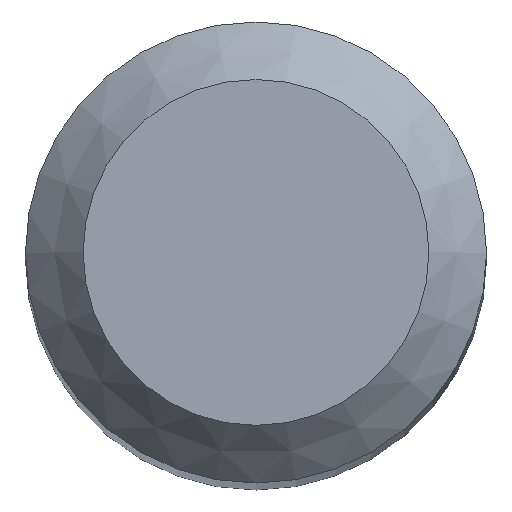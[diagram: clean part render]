
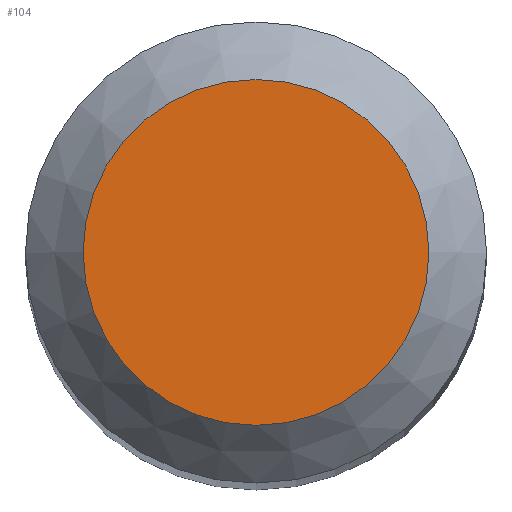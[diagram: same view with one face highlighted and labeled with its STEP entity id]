
A CAD part, top view. The second image highlights one B-rep face of the part: STEP entity #104.
In plain terms, the highlighted planar face has unit normal (0, 0, 1).
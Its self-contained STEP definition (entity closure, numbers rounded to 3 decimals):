
#88=CARTESIAN_POINT('',(1.5,0.0,45.0));
#89=DIRECTION('',(0.0,0.0,1.0));
#90=DIRECTION('',(1.0,0.0,0.0));
#91=AXIS2_PLACEMENT_3D('',#88,#89,#90);
#92=PLANE('',#91);
#93=CARTESIAN_POINT('',(-1.5,0.0,45.0));
#94=VERTEX_POINT('',#93);
#95=CARTESIAN_POINT('',(0.0,0.0,45.0));
#96=DIRECTION('',(0.0,0.0,-1.0));
#97=DIRECTION('',(-1.0,0.0,0.0));
#98=AXIS2_PLACEMENT_3D('',#95,#96,#97);
#99=CIRCLE('',#98,1.5);
#100=EDGE_CURVE('',#94,#94,#99,.T.);
#101=ORIENTED_EDGE('',*,*,#100,.F.);
#102=EDGE_LOOP('',(#101));
#103=FACE_OUTER_BOUND('',#102,.T.);
#104=ADVANCED_FACE('',(#103),#92,.T.);
